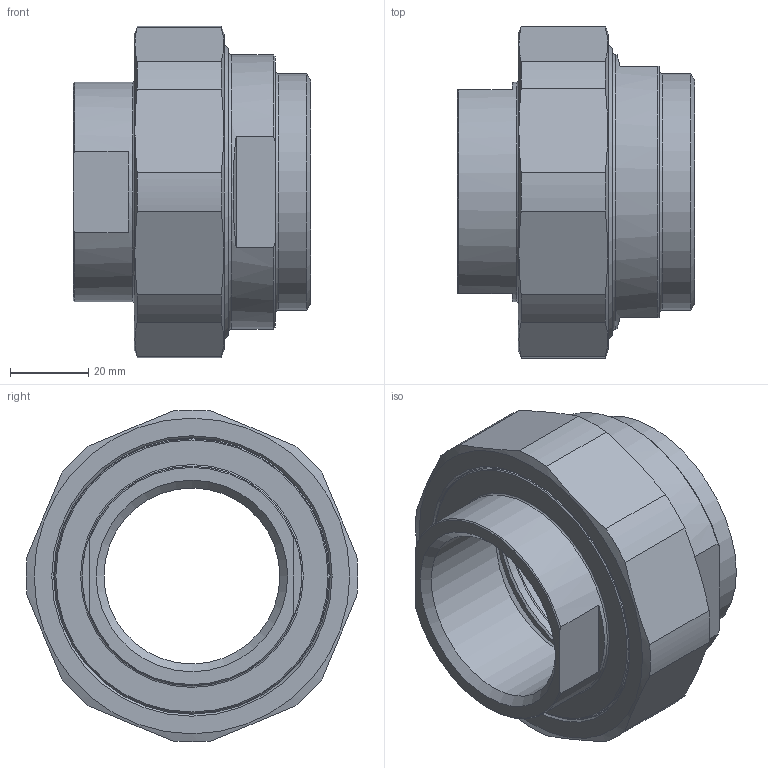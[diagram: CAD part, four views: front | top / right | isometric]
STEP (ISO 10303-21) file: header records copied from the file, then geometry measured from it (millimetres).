
FILE_DESCRIPTION(/* description */ (''),/* implementation_level */ '2;1');
FILE_NAME(/* name */ 'C:\Users\cad\Desktop\Zeichnungen neu von Ralph\Ganze Kupplungen\3D_Kupplung-R134-E-SG\3D_R134-E-SG-DN40-60.3_17101737.stp',/* time_stamp */ '2021-07-01T07:44:10+02:00',/* author */ ('cad'),/* organization */ (''),/* preprocessor_version */ 'ST-DEVELOPER v18.1',/* originating_system */ 'Autodesk Inventor 2022',/* authorisation */ '');
FILE_SCHEMA (('AUTOMOTIVE_DESIGN { 1 0 10303 214 3 1 1 }'));
Length unit declared in the file: millimetre
Products named in the file (4): 3D_R134-E-SG-DN40-60.3_17101737; 3D_R134-M-DN50_171011635; 3D_R134-SG-60.3_171011535; 3D_R134-E-DN40-DN50_171011037
Assembly tree (3 placements, depth 2):
  3D_R134-E-SG-DN40-60.3_17101737
    3D_R134-M-DN50_171011635
    3D_R134-SG-60.3_171011535
    3D_R134-E-DN40-DN50_171011037
Bounding box: 60.5 x 84.67 x 84.64 mm (x, y, z)
Volume: 112101 mm3; surface area: 44974.2 mm2
Topology: 3 solids, 3 shells, 79 faces, 193 edges, 127 vertices
Faces by surface type: plane 29, cone 21, cylinder 19, torus 10
Full cylindrical faces by diameter (mm): 44.845 x1, 55.1 x1, 55.3 x1, 56 x1, 60.3 x1, 70 x2, 70.5 x1, 74 x1, 74.376 x1, 75.85 x1
Entity records: 2507 total; most frequent: CARTESIAN_POINT 454, DIRECTION 450, ORIENTED_EDGE 386, AXIS2_PLACEMENT_3D 195, EDGE_CURVE 193, VERTEX_POINT 127, CIRCLE 107, EDGE_LOOP 92
